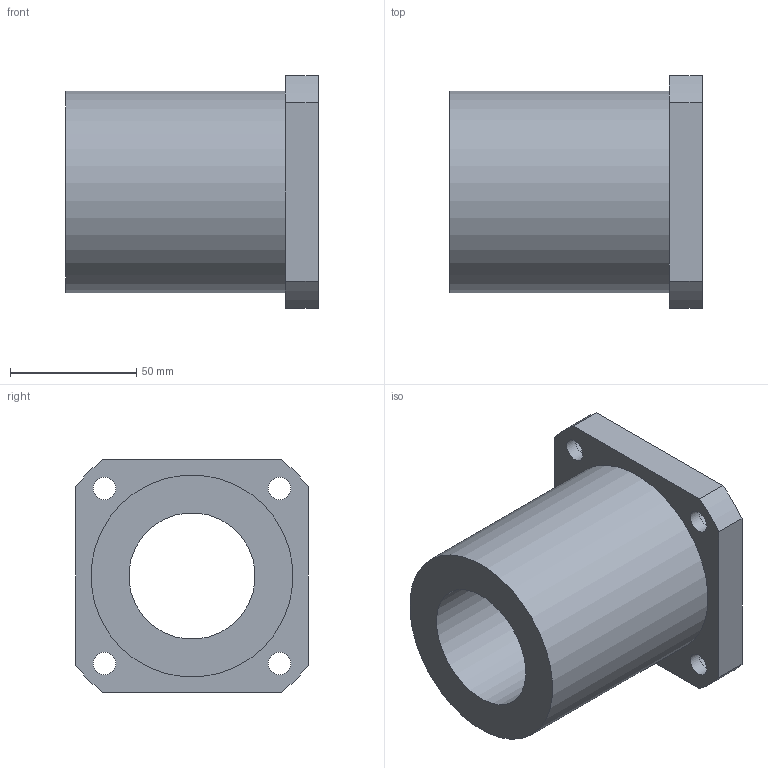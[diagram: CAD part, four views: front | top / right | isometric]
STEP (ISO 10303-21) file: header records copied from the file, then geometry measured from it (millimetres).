
FILE_DESCRIPTION(/* description */ (''),/* implementation_level */ '2;1');
FILE_NAME(/* name */ 'LMK50UU',/* time_stamp */ '2019-07-09T15:13:36+02:00',/* author */ ('VĂ©gh MĂˇtĂ©'),/* organization */ ('Bearing Kft'),/* preprocessor_version */ 'ST-DEVELOPER v16.7',/* originating_system */ 'DEX',/* authorisation */ $);
FILE_SCHEMA (('AUTOMOTIVE_DESIGN {1 0 10303 214 3 1 1}'));
Length unit declared in the file: millimetre
Products named in the file (1): LMK50UU
Bounding box: 100 x 92 x 92 mm (x, y, z)
Volume: 342040.6 mm3; surface area: 56131.3 mm2
Topology: 1 solids, 1 shells, 327 faces, 822 edges, 548 vertices
Faces by surface type: plane 252, bspline 59, cylinder 16
Full cylindrical faces by diameter (mm): 9 x4, 14 x4, 50 x1, 80 x1
Entity records: 12997 total; most frequent: CARTESIAN_POINT 5502, ORIENTED_EDGE 1618, DIRECTION 1261, EDGE_CURVE 809, LINE 659, VECTOR 659, VERTEX_POINT 548, EDGE_LOOP 401
